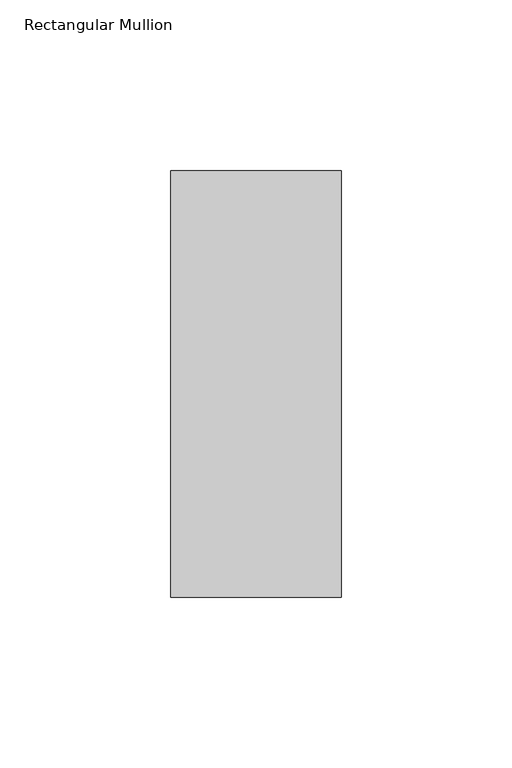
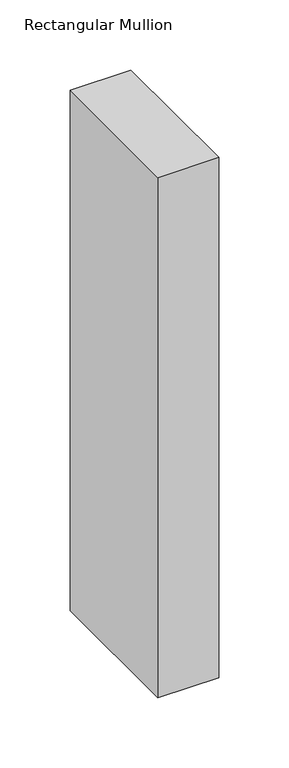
"""IFC4 building model written with IfcOpenShell, lengths in millimetres: member geometry, Rectangular Mullion : DucoSun Cubic Design profile 50x125 for louvre 500."""

from ifc_helpers import new_model, si_unit, frame, origin, place, context, project, spatial, polyline, outline, extrude, source, transform, mapped, element, save


def rectangular_mullion_64b65505(model_context):
    return source(origin(), model_context, "Body", "SweptSolid", [
        extrude(outline(polyline([(-50.0, -187.5), (0.0, -187.5), (0.0, -312.5), (-50.0, -312.5), (-50.0, -187.5)])), frame((0.0, 0.0, -452.4), z_axis=(0.0, 0.0, 1.0), x_axis=(1.0, 0.0, 0.0)), (0.0, 0.0, 1.0), 452.4),
    ])


if __name__ == "__main__":
    model = new_model("IFC4")
    model_context = context("Model", 3, world=origin())
    ifc_project = project(units=[si_unit("LENGTHUNIT", "METRE", prefix="MILLI")], contexts=[model_context])
    site = spatial("IfcSite", under=ifc_project)
    building = spatial("IfcBuilding", under=site)
    placement = place(None, origin())
    rectangular_mullion_shape = rectangular_mullion_64b65505(model_context)
    element("IfcMember", 1, ObjectType="Rectangular Mullion : DucoSun Cubic Design profile 50x125 for louvre 500", at=placement, inside=building, context=model_context, shape_type="MappedRepresentation", body=[
        mapped(rectangular_mullion_shape, transform((0.0, 0.0, 0.0), x_axis=(1.0, 0.0, 0.0), y_axis=(0.0, 1.0, 0.0), z_axis=(0.0, 0.0, 1.0))),
    ])
    save(model, "model.ifc")
